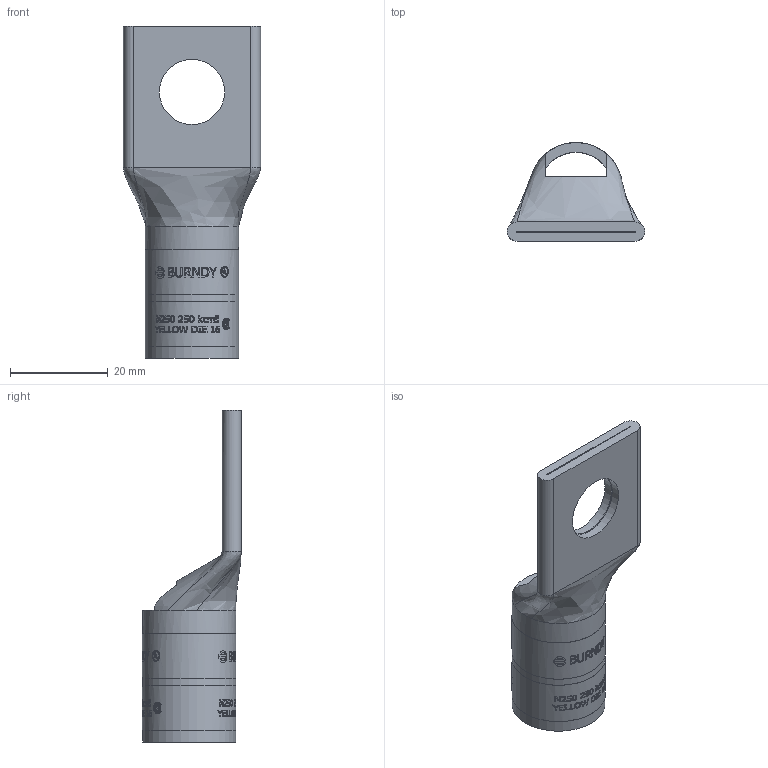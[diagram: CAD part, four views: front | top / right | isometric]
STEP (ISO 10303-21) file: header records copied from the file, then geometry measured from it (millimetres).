
FILE_DESCRIPTION((''),'2;1');
FILE_NAME('C:\Users\mvp\Desktop\3A-11222013-\YA29LBOX_MODEL-STEP.stp','2013-11-22T14:05:26',('mvp'),(''),'Autodesk Inventor 2012','Autodesk Inventor 2012','');
FILE_SCHEMA(('AUTOMOTIVE_DESIGN { 1 0 10303 214 1 1 1 1 }'));
Length unit declared in the file: inch
Products named in the file (1): 518450
Bounding box: 28.07 x 20.27 x 67.92 mm (x, y, z)
Volume: 6383.2 mm3; surface area: 7297.8 mm2
Topology: 1 solids, 1 shells, 1365 faces, 3696 edges, 2464 vertices
Faces by surface type: plane 638, bspline 594, cylinder 132, cone 1
Full cylindrical faces by diameter (mm): 2.484 x1, 3.048 x1, 13.335 x2, 15.113 x1, 19.05 x3, 19.101 x2
Entity records: 158128 total; most frequent: CARTESIAN_POINT 127328, ORIENTED_EDGE 7352, DIRECTION 3967, EDGE_CURVE 3676, VERTEX_POINT 2457, VECTOR 1749, LINE 1749, EDGE_LOOP 1517
